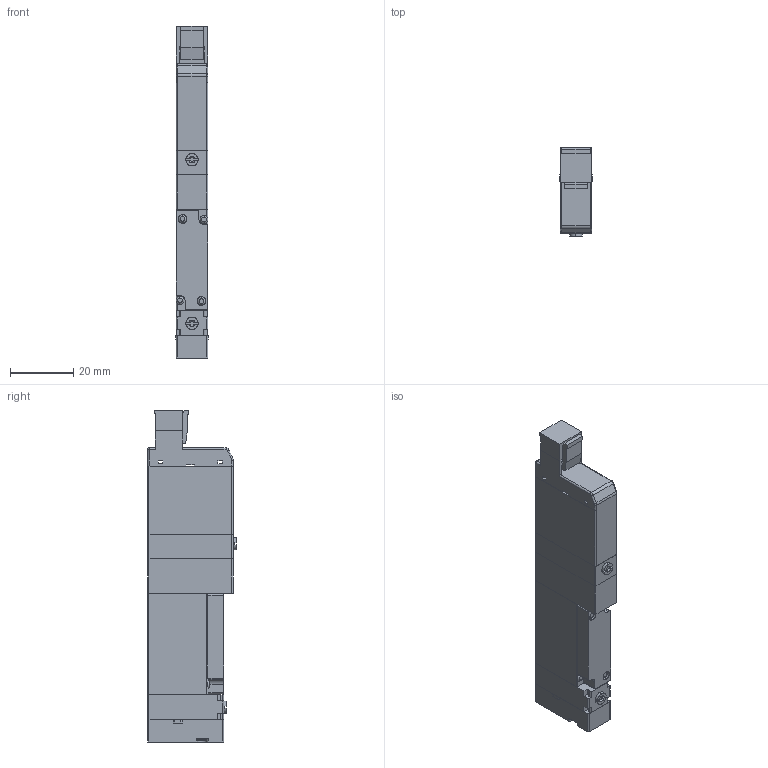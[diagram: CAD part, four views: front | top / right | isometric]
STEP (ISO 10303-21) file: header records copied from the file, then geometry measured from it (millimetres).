
FILE_DESCRIPTION( (''), '2;1');
FILE_NAME ('CVICAD02.13484.F10T2-A1-PS_5920.stp','2020-09-01T14:10:54',(''),(''),'spGate 12.6.6','','');
FILE_SCHEMA (('AUTOMOTIVE_DESIGN'));
Length unit declared in the file: millimetre
Products named in the file (8): Assembly; F10_Adptor; F_3PortBody; F10_Cap; F10T_Body; F_Connector-PS; F10_SwitchBlock; F10_A1
Assembly tree (7 placements, depth 2):
  Assembly
    F10_Adptor
    F_3PortBody
    F10_Cap
    F10T_Body
    F_Connector-PS
    F10_SwitchBlock
    F10_A1
Bounding box: 10.2 x 28 x 105 mm (x, y, z)
Volume: 24270.5 mm3; surface area: 11419.2 mm2
Topology: 7 solids, 7 shells, 275 faces, 712 edges, 464 vertices
Faces by surface type: plane 162, cylinder 87, bspline 24, sphere 2
Entity records: 14618 total; most frequent: CARTESIAN_POINT 1960, ORIENTED_EDGE 1420, DIRECTION 1419, COLOUR_RGB 992, PRESENTATION_STYLE_ASSIGNMENT 992, STYLED_ITEM 992, EDGE_CURVE 710, DRAUGHTING_PRE_DEFINED_CURVE_FONT 710
